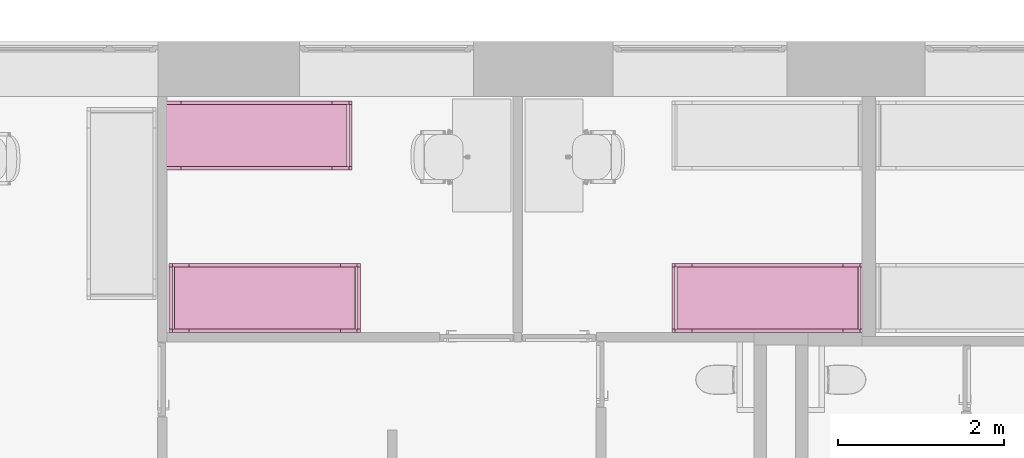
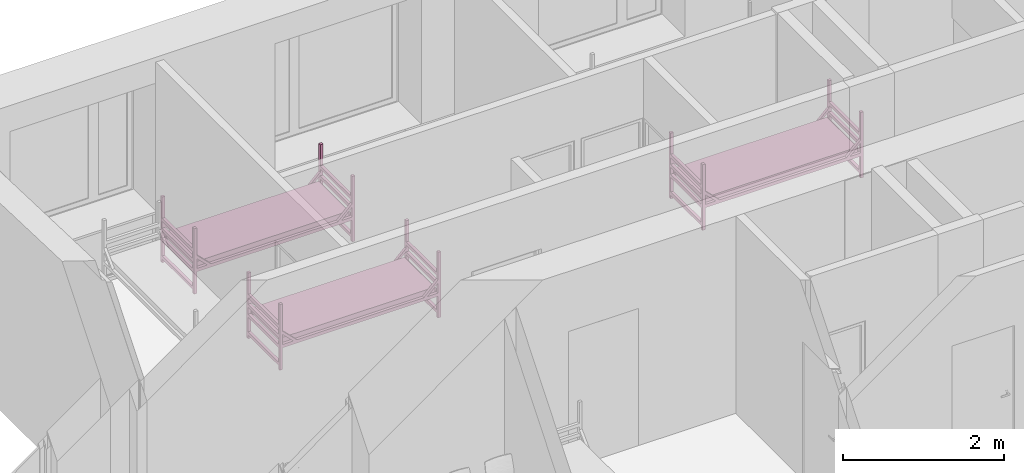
# One storey, part 35 of 46: 3 furnishings.
"""IFC2X3 building model written with IfcOpenShell, lengths in millimetres."""

from ifc_helpers import new_model, entity, si_unit, converted_unit, derived_unit, direction, frame, frame_2d, origin, origin_2d_with_axis, place, context, subcontext, project, spatial, polyline, circle_curve, parameter, trimmed, segment, composite_curve, rectangle, outline, extrude, source, transform, mapped, material, type_object, type_shapes, element, save


model = new_model("IFC2X3")

# Units and contexts
model_context = context("Model", 3, precision=0.01, world=origin(), true_north=direction((6.12303176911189e-17, 1.0)))
body_context = subcontext(model_context, "Body", "Model", "MODEL_VIEW")
ifc_project = project(units=[si_unit("LENGTHUNIT", "METRE", prefix="MILLI"), si_unit("AREAUNIT", "SQUARE_METRE"), si_unit("VOLUMEUNIT", "CUBIC_METRE"), converted_unit("PLANEANGLEUNIT", "DEGREE", entity("IfcRatioMeasure", 0.0174532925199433), si_unit("PLANEANGLEUNIT", "RADIAN"), dimensions=[0, 0, 0, 0, 0, 0, 0]), si_unit("MASSUNIT", "GRAM", prefix="KILO"), derived_unit("MASSDENSITYUNIT", [(si_unit("MASSUNIT", "GRAM", prefix="KILO"), 1), (si_unit("LENGTHUNIT", "METRE"), -3)]), si_unit("TIMEUNIT", "SECOND"), si_unit("FREQUENCYUNIT", "HERTZ"), si_unit("THERMODYNAMICTEMPERATUREUNIT", "DEGREE_CELSIUS"), derived_unit("THERMALTRANSMITTANCEUNIT", [(si_unit("MASSUNIT", "GRAM", prefix="KILO"), 1), (si_unit("THERMODYNAMICTEMPERATUREUNIT", "KELVIN"), -1), (si_unit("TIMEUNIT", "SECOND"), -3)]), derived_unit("VOLUMETRICFLOWRATEUNIT", [(si_unit("LENGTHUNIT", "METRE"), 3), (si_unit("TIMEUNIT", "SECOND"), -1)]), si_unit("ELECTRICCURRENTUNIT", "AMPERE"), si_unit("ELECTRICVOLTAGEUNIT", "VOLT"), si_unit("POWERUNIT", "WATT"), si_unit("FORCEUNIT", "NEWTON", prefix="KILO"), si_unit("ILLUMINANCEUNIT", "LUX"), si_unit("LUMINOUSFLUXUNIT", "LUMEN"), si_unit("LUMINOUSINTENSITYUNIT", "CANDELA"), derived_unit("USERDEFINED", [(si_unit("MASSUNIT", "GRAM", prefix="KILO"), -1), (si_unit("LENGTHUNIT", "METRE"), -2), (si_unit("TIMEUNIT", "SECOND"), 3), (si_unit("LUMINOUSFLUXUNIT", "LUMEN"), 1)]), derived_unit("LINEARVELOCITYUNIT", [(si_unit("LENGTHUNIT", "METRE"), 1), (si_unit("TIMEUNIT", "SECOND"), -1)]), si_unit("PRESSUREUNIT", "PASCAL"), derived_unit("USERDEFINED", [(si_unit("LENGTHUNIT", "METRE"), -2), (si_unit("MASSUNIT", "GRAM", prefix="KILO"), 1), (si_unit("TIMEUNIT", "SECOND"), -2)]), derived_unit("LINEARFORCEUNIT", [(si_unit("MASSUNIT", "GRAM", prefix="KILO"), 1), (si_unit("LENGTHUNIT", "METRE"), 1), (si_unit("TIMEUNIT", "SECOND"), -2), (si_unit("LENGTHUNIT", "METRE"), -1)]), derived_unit("PLANARFORCEUNIT", [(si_unit("MASSUNIT", "GRAM", prefix="KILO"), 1), (si_unit("LENGTHUNIT", "METRE"), 1), (si_unit("TIMEUNIT", "SECOND"), -2), (si_unit("LENGTHUNIT", "METRE"), -2)])], contexts=[model_context])

# Site, building, storey, space
site_placement = place(None, origin())
site = spatial("IfcSite", under=ifc_project, at=site_placement, Name="Default", CompositionType="ELEMENT")
building_placement = place(site_placement, origin())
building = spatial("IfcBuilding", under=site, at=building_placement, Name="SMA ARH", CompositionType="ELEMENT")
storey_placement = place(building_placement, frame((0.0, 0.0, 9910.0)))
storey = spatial("IfcBuildingStorey", under=building, at=storey_placement, Name="4 Korrus", CompositionType="ELEMENT", Elevation=9909.9999999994)
space_1_placement = place(storey_placement, origin())
space_1 = spatial("IfcSpace", under=storey, at=space_1_placement, Name="4-24", CompositionType="ELEMENT", InteriorOrExteriorSpace="INTERNAL")

# Furnishing
ifc_material = material(Name="Madrats")
furniture_type_1 = type_object("IfcFurnitureType", Name="Kasarmu voodi ühekordne 2308x830:Kasarmu voodi ühekordne 2308x830", material=ifc_material)
shared_shape_1 = source(origin(), body_context, "Body", "SweptSolid", [
    extrude(rectangle(XDim=39.9999999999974, YDim=750.000000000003, at=frame_2d((-1.35003119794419e-13, -2.8421709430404e-14), x_axis=(1.0, 0.0))), frame((1.68638457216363, -1226.7969571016, 55.0), z_axis=(0.0, 0.0, 1.0), x_axis=(0.0, -1.0, 0.0)), (0.0, 0.0, 1.0), 49.9999999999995),
    extrude(rectangle(XDim=39.9999999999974, YDim=750.000000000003, at=frame_2d((-1.35003119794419e-13, -2.8421709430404e-14), x_axis=(1.0, 0.0))), frame((1.68638457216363, -1226.7969571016, 325.0), z_axis=(0.0, 0.0, 1.0), x_axis=(0.0, -1.0, 0.0)), (0.0, 0.0, 1.0), 49.9999999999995),
    extrude(rectangle(XDim=39.9999999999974, YDim=750.000000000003, at=frame_2d((-1.35003119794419e-13, -2.8421709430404e-14), x_axis=(1.0, 0.0))), frame((1.68638457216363, -1226.7969571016, 475.0), z_axis=(0.0, 0.0, 1.0), x_axis=(0.0, -1.0, 0.0)), (0.0, 0.0, 1.0), 49.9999999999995),
    extrude(rectangle(XDim=39.9999999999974, YDim=750.000000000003, at=frame_2d((-1.35003119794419e-13, -2.8421709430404e-14), x_axis=(1.0, 0.0))), frame((1.68638457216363, -1226.7969571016, 625.0), z_axis=(0.0, 0.0, 1.0), x_axis=(0.0, -1.0, 0.0)), (0.0, 0.0, 1.0), 50.0000000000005),
    extrude(rectangle(XDim=39.9999999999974, YDim=750.000000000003, at=frame_2d((1.35003119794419e-13, -2.8421709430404e-14), x_axis=(1.0, 0.0))), frame((1.68638457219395, 1041.2030428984, 55.0), z_axis=(0.0, 0.0, 1.0), x_axis=(0.0, -1.0, 0.0)), (0.0, 0.0, 1.0), 50.0000000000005),
    extrude(rectangle(XDim=39.9999999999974, YDim=750.000000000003, at=frame_2d((1.35003119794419e-13, -2.8421709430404e-14), x_axis=(1.0, 0.0))), frame((1.68638457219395, 1041.2030428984, 325.0), z_axis=(0.0, 0.0, 1.0), x_axis=(0.0, -1.0, 0.0)), (0.0, 0.0, 1.0), 50.0000000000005),
    extrude(rectangle(XDim=39.9999999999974, YDim=750.000000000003, at=frame_2d((1.35003119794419e-13, -2.8421709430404e-14), x_axis=(1.0, 0.0))), frame((1.68638457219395, 1041.2030428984, 475.0), z_axis=(0.0, 0.0, 1.0), x_axis=(0.0, -1.0, 0.0)), (0.0, 0.0, 1.0), 50.0000000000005),
    extrude(rectangle(XDim=39.9999999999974, YDim=750.000000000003, at=frame_2d((1.35003119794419e-13, -2.8421709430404e-14), x_axis=(1.0, 0.0))), frame((1.68638457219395, 1041.2030428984, 625.0), z_axis=(0.0, 0.0, 1.0), x_axis=(0.0, -1.0, 0.0)), (0.0, 0.0, 1.0), 49.9999999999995),
    extrude(outline(composite_curve([segment(trimmed(circle_curve(frame_2d((1085.0, -40.0), x_axis=(1.0, 0.0)), 10.0), [parameter(270.0)], [parameter(0.0)], True, "PARAMETER"), True, "CONTINUOUS"), segment(polyline([(1095.0, -40.0), (1095.0, 40.0)]), True, "CONTINUOUS"), segment(trimmed(circle_curve(frame_2d((1085.0, 40.0), x_axis=(1.0, 0.0)), 10.0), [parameter(0.0)], [parameter(90.0000000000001)], True, "PARAMETER"), True, "CONTINUOUS"), segment(polyline([(1085.0, 50.0), (-1085.0, 50.0)]), True, "CONTINUOUS"), segment(trimmed(circle_curve(frame_2d((-1085.0, 40.0), x_axis=(1.0, 0.0)), 10.0), [parameter(90.0000000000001)], [parameter(180.0)], True, "PARAMETER"), True, "CONTINUOUS"), segment(polyline([(-1095.0, 40.0), (-1095.0, -40.0)]), True, "CONTINUOUS"), segment(trimmed(circle_curve(frame_2d((-1085.0, -40.0), x_axis=(1.0, 0.0)), 10.0), [parameter(180.0)], [parameter(270.0)], True, "PARAMETER"), True, "CONTINUOUS"), segment(polyline([(-1085.0, -50.0), (1085.0, -50.0)]), True, "CONTINUOUS")], self_intersect=False)), frame((-373.313615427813, -92.7969571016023, 405.0), z_axis=(1.0, 0.0, 0.0), x_axis=(0.0, -1.0, 0.0)), (0.0, 0.0, 1.0), 750.000000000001),
    extrude(outline(polyline([(-1114.0, -100.0), (1114.0, -100.0), (1114.0, -50.0), (961.59199141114, -50.0), (1114.0, 100.0), (1114.0, 150.0), (910.789321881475, -50.0), (-910.789321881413, -50.0), (-1114.0, 150.0), (-1114.0, 100.0), (-961.591991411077, -50.0), (-1114.0, -50.0), (-1114.0, -100.0)])), frame((-413.313615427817, -92.7969571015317, 430.0), z_axis=(1.0, 0.0, 0.0), x_axis=(0.0, 1.0, 0.0)), (0.0, 0.0, 1.0), 39.9999999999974),
    extrude(outline(polyline([(-1114.0, -100.0), (1114.0, -100.0), (1114.0, -50.0), (961.591991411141, -50.0), (1114.0, 100.0), (1114.0, 150.0), (910.789321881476, -50.0), (-910.789321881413, -50.0), (-1114.0, 150.0), (-1114.0, 100.0), (-961.591991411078, -50.0), (-1114.0, -50.0), (-1114.0, -100.0)])), frame((376.686384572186, -92.796957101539, 430.0), z_axis=(1.0, 0.0, 0.0), x_axis=(0.0, 1.0, 0.0)), (0.0, 0.0, 1.0), 39.9999999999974),
    extrude(rectangle(XDim=39.9999999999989, YDim=39.9999999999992, at=frame_2d((-6.75015598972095e-14, 0.0), x_axis=(1.0, 0.0))), frame((396.686384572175, -1226.79695710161, 0.0), z_axis=(0.0, 0.0, 1.0), x_axis=(0.0, 1.0, 0.0)), (0.0, 0.0, 1.0), 995.0),
    extrude(rectangle(XDim=39.9999999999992, YDim=39.9999999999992, at=frame_2d((-1.35003119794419e-13, 0.0), x_axis=(1.0, 0.0))), frame((396.686384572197, 1041.20304289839, 0.0), z_axis=(0.0, 0.0, 1.0), x_axis=(0.0, 1.0, 0.0)), (0.0, 0.0, 1.0), 995.0),
    extrude(rectangle(XDim=40.0000000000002, YDim=39.9999999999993, at=frame_2d((-1.35003119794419e-13, 0.0), x_axis=(1.0, 0.0))), frame((-393.313615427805, 1041.2030428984, 0.0), z_axis=(0.0, 0.0, 1.0), x_axis=(0.0, 1.0, 0.0)), (0.0, 0.0, 1.0), 995.0),
    extrude(rectangle(XDim=39.9999999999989, YDim=39.9999999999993, at=frame_2d((-6.75015598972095e-14, 0.0), x_axis=(1.0, 0.0))), frame((-393.313615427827, -1226.7969571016, 0.0), z_axis=(0.0, 0.0, 1.0), x_axis=(0.0, 1.0, 0.0)), (0.0, 0.0, 1.0), 995.0),
])
type_shapes(furniture_type_1, [shared_shape_1])
furnishing_placement = place(space_1_placement, frame((22161.2030428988, 10071.3136154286, 0.0), z_axis=(0.0, 0.0, 1.0), x_axis=(0.0, 1.0, 0.0)))
element("IfcFurnishingElement", 1, at=furnishing_placement, inside=space_1, type_object=furniture_type_1, material=ifc_material, Name="Kasarmu voodi ühekordne 2308x830:Kasarmu voodi ühekordne 2308x830", ObjectType="Kasarmu voodi ühekordne 2308x830:Kasarmu voodi ühekordne 2308x830", context=body_context, shape_type="MappedRepresentation", body=[
    mapped(shared_shape_1, transform((0.0, 0.0, 0.0), scale=1.0)),
])

# Space
space_2_placement = place(storey_placement, origin())
space_2 = spatial("IfcSpace", under=storey, at=space_2_placement, Name="4-23", CompositionType="ELEMENT", InteriorOrExteriorSpace="INTERNAL")

# Furnishings
furniture_type_2 = type_object("IfcFurnitureType", Name="Kasarmu voodi ühekordne 2308x830:Kasarmu voodi ühekordne 2308x830", material=ifc_material)
shared_shape_2 = source(origin(), body_context, "Body", "SweptSolid", [
    extrude(rectangle(XDim=750.000000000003, YDim=39.9999999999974, at=frame_2d((0.0, 1.35003119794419e-13), x_axis=(1.0, 0.0))), frame((1.68638457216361, 1226.7969571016, 55.0)), (0.0, 0.0, 1.0), 49.9999999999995),
    extrude(rectangle(XDim=750.000000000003, YDim=39.9999999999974, at=frame_2d((0.0, 1.35003119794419e-13), x_axis=(1.0, 0.0))), frame((1.68638457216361, 1226.7969571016, 325.0)), (0.0, 0.0, 1.0), 49.9999999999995),
    extrude(rectangle(XDim=750.000000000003, YDim=39.9999999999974, at=frame_2d((0.0, 1.35003119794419e-13), x_axis=(1.0, 0.0))), frame((1.68638457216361, 1226.7969571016, 475.0)), (0.0, 0.0, 1.0), 49.9999999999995),
    extrude(rectangle(XDim=750.000000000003, YDim=39.9999999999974, at=frame_2d((0.0, 1.35003119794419e-13), x_axis=(1.0, 0.0))), frame((1.68638457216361, 1226.7969571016, 625.0)), (0.0, 0.0, 1.0), 50.0000000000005),
    extrude(rectangle(XDim=750.000000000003, YDim=39.9999999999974, at=origin_2d_with_axis()), frame((1.68638457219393, -1041.2030428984, 55.0)), (0.0, 0.0, 1.0), 50.0000000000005),
    extrude(rectangle(XDim=750.000000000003, YDim=39.9999999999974, at=origin_2d_with_axis()), frame((1.68638457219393, -1041.2030428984, 325.0)), (0.0, 0.0, 1.0), 50.0000000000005),
    extrude(rectangle(XDim=750.000000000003, YDim=39.9999999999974, at=origin_2d_with_axis()), frame((1.68638457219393, -1041.2030428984, 475.0)), (0.0, 0.0, 1.0), 50.0000000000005),
    extrude(rectangle(XDim=750.000000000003, YDim=39.9999999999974, at=origin_2d_with_axis()), frame((1.68638457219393, -1041.2030428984, 625.0)), (0.0, 0.0, 1.0), 49.9999999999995),
    extrude(outline(composite_curve([segment(polyline([(-1085.0, -50.0), (1085.0, -50.0)]), True, "CONTINUOUS"), segment(trimmed(circle_curve(frame_2d((1085.0, -40.0), x_axis=(-1.0, 0.0)), 10.0), [parameter(90.0000000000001)], [parameter(180.0)], True, "PARAMETER"), True, "CONTINUOUS"), segment(polyline([(1095.0, -40.0), (1095.0, 40.0)]), True, "CONTINUOUS"), segment(trimmed(circle_curve(frame_2d((1085.0, 40.0), x_axis=(-1.0, 0.0)), 10.0), [parameter(180.0)], [parameter(270.0)], True, "PARAMETER"), True, "CONTINUOUS"), segment(polyline([(1085.0, 50.0), (-1085.0, 50.0)]), True, "CONTINUOUS"), segment(trimmed(circle_curve(frame_2d((-1085.0, 40.0), x_axis=(-1.0, 0.0)), 10.0), [parameter(270.0)], [parameter(0.0)], True, "PARAMETER"), True, "CONTINUOUS"), segment(polyline([(-1095.0, 40.0), (-1095.0, -40.0)]), True, "CONTINUOUS"), segment(trimmed(circle_curve(frame_2d((-1085.0, -40.0), x_axis=(-1.0, 0.0)), 10.0), [parameter(0.0)], [parameter(90.0000000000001)], True, "PARAMETER"), True, "CONTINUOUS")], self_intersect=False)), frame((-373.313615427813, 92.7969571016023, 405.0), z_axis=(1.0, 0.0, 0.0), x_axis=(0.0, -1.0, 0.0)), (0.0, 0.0, 1.0), 750.000000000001),
    extrude(outline(polyline([(-100.0, -1114.0), (-50.0, -1114.0), (-50.0, -961.591991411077), (100.0, -1114.0), (150.0, -1114.0), (-50.0, -910.789321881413), (-50.0, 910.789321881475), (150.0, 1114.0), (100.0, 1114.0), (-50.0, 961.591991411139), (-50.0, 1114.0), (-100.0, 1114.0), (-100.0, -1114.0)])), frame((-413.313615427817, 92.7969571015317, 430.0), z_axis=(1.0, 0.0, 0.0), x_axis=(0.0, 0.0, 1.0)), (0.0, 0.0, 1.0), 39.9999999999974),
    extrude(outline(polyline([(-100.0, -1114.0), (-50.0, -1114.0), (-50.0, -961.591991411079), (100.0, -1114.0), (150.0, -1114.0), (-50.0, -910.789321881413), (-50.0, 910.789321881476), (150.0, 1114.0), (100.0, 1114.0), (-50.0, 961.591991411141), (-50.0, 1114.0), (-100.0, 1114.0), (-100.0, -1114.0)])), frame((376.686384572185, 92.796957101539, 430.0), z_axis=(1.0, 0.0, 0.0), x_axis=(0.0, 0.0, 1.0)), (0.0, 0.0, 1.0), 39.9999999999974),
    extrude(rectangle(XDim=39.9999999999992, YDim=39.9999999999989, at=frame_2d((0.0, -6.75015598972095e-14), x_axis=(1.0, 0.0))), frame((396.686384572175, 1226.79695710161, 0.0), z_axis=(0.0, 0.0, 1.0), x_axis=(-1.0, 0.0, 0.0)), (0.0, 0.0, 1.0), 995.0),
    extrude(rectangle(XDim=39.9999999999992, YDim=39.9999999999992, at=origin_2d_with_axis()), frame((396.686384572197, -1041.20304289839, 0.0), z_axis=(0.0, 0.0, 1.0), x_axis=(-1.0, 0.0, 0.0)), (0.0, 0.0, 1.0), 995.0),
    extrude(rectangle(XDim=39.9999999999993, YDim=40.0000000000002, at=origin_2d_with_axis()), frame((-393.313615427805, -1041.2030428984, 0.0), z_axis=(0.0, 0.0, 1.0), x_axis=(-1.0, 0.0, 0.0)), (0.0, 0.0, 1.0), 995.0),
    extrude(rectangle(XDim=39.9999999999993, YDim=39.9999999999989, at=frame_2d((0.0, -6.75015598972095e-14), x_axis=(1.0, 0.0))), frame((-393.313615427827, 1226.7969571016, 0.0), z_axis=(0.0, 0.0, 1.0), x_axis=(-1.0, 0.0, 0.0)), (0.0, 0.0, 1.0), 995.0),
])
type_shapes(furniture_type_2, [shared_shape_2])
for number, where, z_axis, x_axis, name in (
    (2, (16286.796957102, 10071.3136154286, 0.0), (0.0, 0.0, 1.0), (0.0, 1.0, 0.0), "Kasarmu voodi ühekordne 2308x830:Kasarmu voodi ühekordne 2308x830"),
    (3, (16185.796957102, 12030.0, 0.0), (0.0, 0.0, 1.0), (0.0, 1.0, 0.0), "Kasarmu voodi ühekordne 2308x830:Kasarmu voodi ühekordne 2308x830"),
):
    element("IfcFurnishingElement", number, at=place(space_2_placement, frame(where, z_axis=z_axis, x_axis=x_axis)), inside=space_2, type_object=furniture_type_2, material=ifc_material, Name=name, ObjectType="Kasarmu voodi ühekordne 2308x830:Kasarmu voodi ühekordne 2308x830", context=body_context, shape_type="MappedRepresentation", body=[
        mapped(shared_shape_2, transform((0.0, 0.0, 0.0), scale=1.0)),
    ])

save(model, "model.ifc")
